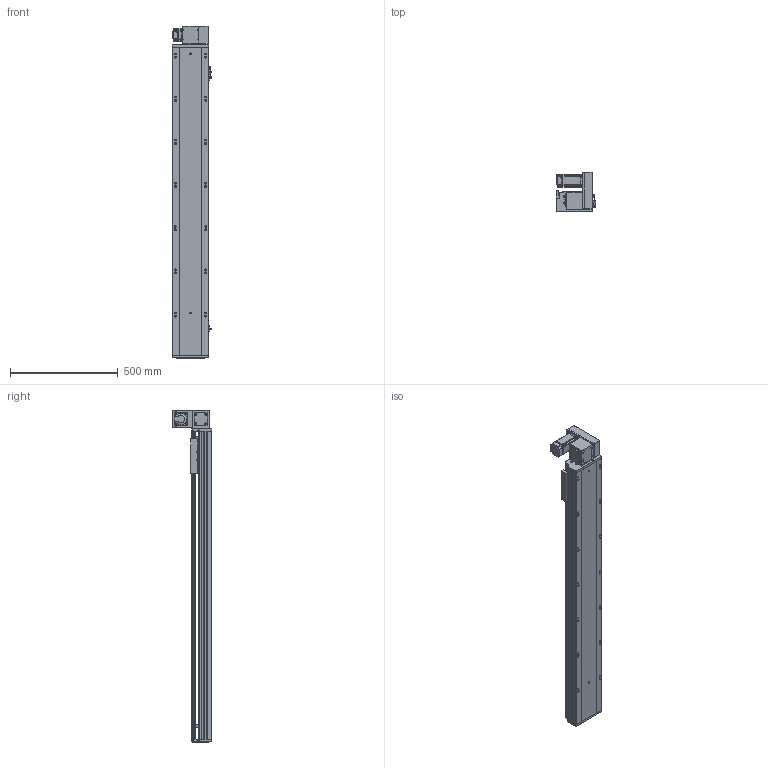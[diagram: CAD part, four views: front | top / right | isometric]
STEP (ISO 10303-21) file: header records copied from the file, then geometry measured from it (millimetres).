
FILE_DESCRIPTION (( 'STEP AP203' ), '1' );
FILE_NAME ('RY170-T-300-UR-P400W.SLDASM_1150.step', '2021-03-01T09:27:51', ( '盈信电脑' ), ( '东莞市道滘镇水果街19号' ), 'SwSTEP 2.0', 'SolidWorks 2012', '' );
FILE_SCHEMA (( 'CONFIG_CONTROL_DESIGN' ));
Length unit declared in the file: millimetre
Products named in the file (18): 滅袉蝶18-10; 15; RY170-T蹟翐M4; RY170-T-300-UR-P400W.SLDASM_1150; RY170-T肮祭謫裔啣; RY170-T肮祭湍揤踡輸1; RY170-T肮祭湍揤踡輸2; RY120-T主同步轮轴承压盖; RY170肮祭謫萇儂欶; RY170翋肮祭謫釱; RY170同步轮电机安装板(400W); RY170肮祭謫ヶ裔啣; RY170綴裔啣; RY170外置感应片(200共用）; 覜茼ん672; RY170-T-300肮祭謫倰第裔啣-DR_1150; RY170-T-300肮祭謫倰第菁釱-DR_1150; RY170肮祭湍臏賑輸
Assembly tree (22 placements, depth 2):
  RY170-T-300-UR-P400W.SLDASM_1150
    RY170-T-300肮祭謫倰第菁釱-DR_1150
    RY170肮祭湍臏賑輸
    RY170-T-300肮祭謫倰第裔啣-DR_1150
    RY170綴裔啣
    覜茼ん672  x3
    RY170外置感应片(200共用）
    RY170肮祭謫ヶ裔啣
    RY170翋肮祭謫釱
    RY170同步轮电机安装板(400W)
    RY170肮祭謫萇儂欶
    RY170-T肮祭湍揤踡輸1  x2
    RY170-T肮祭湍揤踡輸2  x2
    RY120-T主同步轮轴承压盖
    RY170-T肮祭謫裔啣
    RY170-T蹟翐M4
    滅袉蝶18-10  x2
    15
Bounding box: 183.7 x 182 x 1538 mm (x, y, z)
Volume: 7548953.7 mm3; surface area: 2564829.9 mm2
Topology: 22 solids, 22 shells, 2760 faces, 7634 edges, 4891 vertices
Faces by surface type: plane 1260, cylinder 1222, cone 248, bspline 30
Entity records: 81728 total; most frequent: CARTESIAN_POINT 17974, ORIENTED_EDGE 12952, DIRECTION 12818, EDGE_CURVE 6476, AXIS2_PLACEMENT_3D 4505, VERTEX_POINT 4247, VECTOR 3808, LINE 3808
